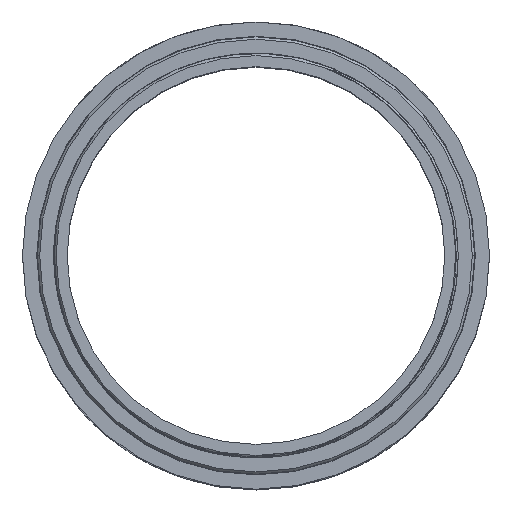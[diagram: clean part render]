
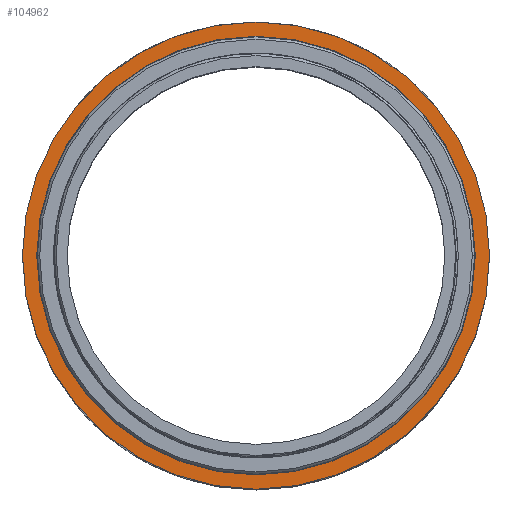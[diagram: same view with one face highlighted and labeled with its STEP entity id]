
A CAD part, top view. The second image highlights one B-rep face of the part: STEP entity #104962.
In plain terms, the highlighted planar face has unit normal (0, 0, 1).
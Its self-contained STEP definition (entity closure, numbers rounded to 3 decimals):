
#104113=CARTESIAN_POINT('',(0.,0.,-8.481));
#104114=DIRECTION('',(0.,0.,1.));
#104115=DIRECTION('',(1.,0.,0.));
#104116=AXIS2_PLACEMENT_3D('',#104113,#104114,#104115);
#104118=CARTESIAN_POINT('',(0.,0.,-8.481));
#104119=DIRECTION('',(0.,0.,1.));
#104120=DIRECTION('',(-1.,0.,0.));
#104121=AXIS2_PLACEMENT_3D('',#104118,#104119,#104120);
#104123=CARTESIAN_POINT('',(0.,0.,-8.481));
#104124=DIRECTION('',(0.,0.,-1.));
#104125=DIRECTION('',(-1.,0.,0.));
#104126=AXIS2_PLACEMENT_3D('',#104123,#104124,#104125);
#104128=CARTESIAN_POINT('',(0.,0.,-8.481));
#104129=DIRECTION('',(0.,0.,-1.));
#104130=DIRECTION('',(1.,0.,0.));
#104131=AXIS2_PLACEMENT_3D('',#104128,#104129,#104130);
#104165=CARTESIAN_POINT('',(-28.016,0.,-8.481));
#104166=CARTESIAN_POINT('',(28.016,0.,-8.481));
#104167=VERTEX_POINT('',#104165);
#104168=VERTEX_POINT('',#104166);
#104173=CARTESIAN_POINT('',(-29.845,0.,-8.481));
#104174=VERTEX_POINT('',#104173);
#104175=CARTESIAN_POINT('',(29.845,0.,-8.481));
#104176=VERTEX_POINT('',#104175);
#104949=CARTESIAN_POINT('',(0.,0.,-8.481));
#104950=DIRECTION('',(0.,0.,1.));
#104951=DIRECTION('',(1.,0.,0.));
#104952=AXIS2_PLACEMENT_3D('',#104949,#104950,#104951);
#104953=PLANE('',#104952);
#104954=ORIENTED_EDGE('',*,*,#104389,.F.);
#104955=ORIENTED_EDGE('',*,*,#104348,.F.);
#104956=EDGE_LOOP('',(#104954,#104955));
#104957=FACE_OUTER_BOUND('',#104956,.F.);
#104958=ORIENTED_EDGE('',*,*,#104446,.F.);
#104959=ORIENTED_EDGE('',*,*,#104755,.F.);
#104960=EDGE_LOOP('',(#104958,#104959));
#104961=FACE_BOUND('',#104960,.F.);
#104962=ADVANCED_FACE('',(#104957,#104961),#104953,.T.);
#104117=CIRCLE('',#104116,29.845);
#104122=CIRCLE('',#104121,29.845);
#104127=CIRCLE('',#104126,28.016);
#104132=CIRCLE('',#104131,28.016);
#104348=EDGE_CURVE('',#104174,#104176,#104122,.T.);
#104389=EDGE_CURVE('',#104176,#104174,#104117,.T.);
#104446=EDGE_CURVE('',#104167,#104168,#104127,.T.);
#104755=EDGE_CURVE('',#104168,#104167,#104132,.T.);
